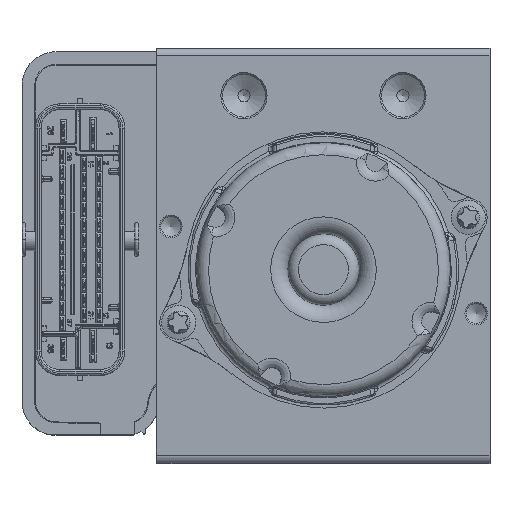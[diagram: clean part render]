
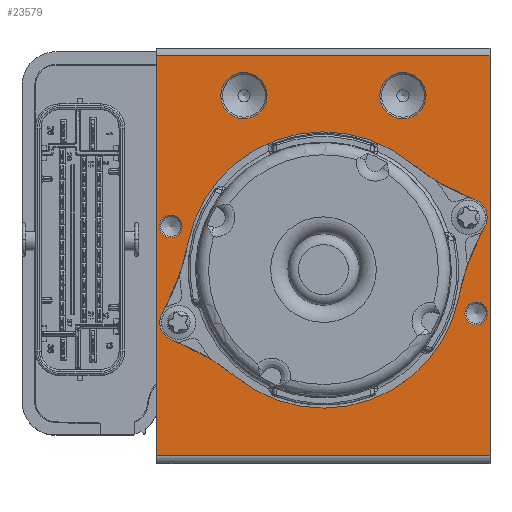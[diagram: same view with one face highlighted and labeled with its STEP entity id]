
A CAD part, top view. The second image highlights one B-rep face of the part: STEP entity #23579.
In plain terms, the highlighted planar face has unit normal (0, 0, 1).
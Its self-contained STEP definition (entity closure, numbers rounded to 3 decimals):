
#23579=ADVANCED_FACE('FACE_PH_01',(#41188,#41189,#41190,#41191,#41192),
#26924,.F.);
#26924=PLANE('',#81813);
#28965=LINE('',#103686,#35075);
#28966=LINE('',#103698,#35076);
#28967=LINE('',#103700,#35077);
#28968=LINE('',#103702,#35078);
#35075=VECTOR('',#87076,1.);
#35076=VECTOR('',#87089,1.);
#35077=VECTOR('',#87090,1.);
#35078=VECTOR('',#87091,1.);
#41188=FACE_BOUND('',#41603,.T.);
#41189=FACE_BOUND('',#41604,.T.);
#41190=FACE_BOUND('',#41605,.T.);
#41191=FACE_BOUND('',#41606,.T.);
#41192=FACE_BOUND('',#41607,.T.);
#41603=EDGE_LOOP('',(#45199));
#41604=EDGE_LOOP('',(#45200));
#41605=EDGE_LOOP('',(#45201));
#41606=EDGE_LOOP('',(#45202));
#41607=EDGE_LOOP('',(#45203,#45204,#45205,#45206));
#45199=ORIENTED_EDGE('',*,*,#68208,.T.);
#45200=ORIENTED_EDGE('',*,*,#68209,.T.);
#45201=ORIENTED_EDGE('',*,*,#68210,.T.);
#45202=ORIENTED_EDGE('',*,*,#68211,.T.);
#45203=ORIENTED_EDGE('',*,*,#68212,.T.);
#45204=ORIENTED_EDGE('',*,*,#68206,.F.);
#45205=ORIENTED_EDGE('',*,*,#68213,.F.);
#45206=ORIENTED_EDGE('',*,*,#68214,.T.);
#62601=VERTEX_POINT('',#103685);
#62602=VERTEX_POINT('',#103687);
#62603=VERTEX_POINT('',#103691);
#62604=VERTEX_POINT('',#103693);
#62605=VERTEX_POINT('',#103695);
#62606=VERTEX_POINT('',#103697);
#62607=VERTEX_POINT('',#103699);
#62608=VERTEX_POINT('',#103701);
#68206=EDGE_CURVE('',#62601,#62602,#28965,.T.);
#68208=EDGE_CURVE('',#62603,#62603,#80008,.T.);
#68209=EDGE_CURVE('',#62604,#62604,#80009,.T.);
#68210=EDGE_CURVE('',#62605,#62605,#80010,.T.);
#68211=EDGE_CURVE('',#62606,#62606,#80011,.T.);
#68212=EDGE_CURVE('',#62607,#62602,#28966,.T.);
#68213=EDGE_CURVE('',#62608,#62601,#28967,.T.);
#68214=EDGE_CURVE('',#62608,#62607,#28968,.T.);
#80008=CIRCLE('',#81809,6.1);
#80009=CIRCLE('',#81810,6.1);
#80010=CIRCLE('',#81811,3.);
#80011=CIRCLE('',#81812,3.);
#81809=AXIS2_PLACEMENT_3D('',#103690,#87081,#87082);
#81810=AXIS2_PLACEMENT_3D('',#103692,#87083,#87084);
#81811=AXIS2_PLACEMENT_3D('',#103694,#87085,#87086);
#81812=AXIS2_PLACEMENT_3D('',#103696,#87087,#87088);
#81813=AXIS2_PLACEMENT_3D('',#103703,#87092,#87093);
#87076=DIRECTION('',(-1.,0.,0.));
#87081=DIRECTION('',(0.,0.,-1.));
#87082=DIRECTION('',(-1.,0.,0.));
#87083=DIRECTION('',(0.,0.,-1.));
#87084=DIRECTION('',(-1.,0.,0.));
#87085=DIRECTION('',(0.,0.,-1.));
#87086=DIRECTION('',(0.,1.,0.));
#87087=DIRECTION('',(0.,0.,-1.));
#87088=DIRECTION('',(-1.,0.,0.));
#87089=DIRECTION('',(0.,-1.,0.));
#87090=DIRECTION('',(0.,-1.,0.));
#87091=DIRECTION('',(-1.,0.,0.));
#87092=DIRECTION('',(0.,0.,-1.));
#87093=DIRECTION('',(0.,1.,0.));
#103685=CARTESIAN_POINT('',(92.5,-15.15,30.5));
#103686=CARTESIAN_POINT('',(92.5,-15.15,30.5));
#103687=CARTESIAN_POINT('',(4.5,-15.15,30.5));
#103690=CARTESIAN_POINT('',(69.5,80.,30.5));
#103691=CARTESIAN_POINT('',(63.4,80.,30.5));
#103692=CARTESIAN_POINT('',(27.5,80.,30.5));
#103693=CARTESIAN_POINT('',(21.4,80.,30.5));
#103694=CARTESIAN_POINT('',(88.85,22.45,30.5));
#103695=CARTESIAN_POINT('',(88.85,25.45,30.5));
#103696=CARTESIAN_POINT('',(8.15,45.45,30.5));
#103697=CARTESIAN_POINT('',(5.15,45.45,30.5));
#103698=CARTESIAN_POINT('',(4.5,90.5,30.5));
#103699=CARTESIAN_POINT('',(4.5,90.5,30.5));
#103700=CARTESIAN_POINT('',(92.5,90.5,30.5));
#103701=CARTESIAN_POINT('',(92.5,90.5,30.5));
#103702=CARTESIAN_POINT('',(92.5,90.5,30.5));
#103703=CARTESIAN_POINT('',(92.5,90.5,30.5));
